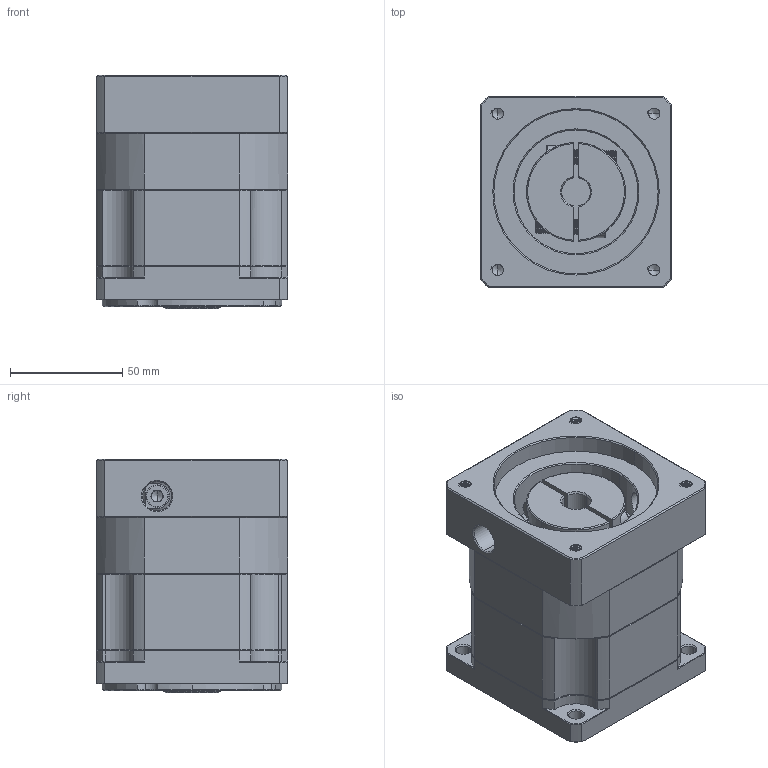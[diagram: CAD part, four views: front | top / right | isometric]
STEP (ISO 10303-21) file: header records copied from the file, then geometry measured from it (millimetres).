
FILE_DESCRIPTION (( 'STEP AP214' ), '1' );
FILE_NAME ('ZB90-K15-L1-12.7-73-69.5X69.5-M6.STEP', '2022-05-02T15:32:46', ( '' ), ( 'Microsoft' ), 'SwSTEP 2.0', 'SolidWorks 2016', '' );
FILE_SCHEMA (( 'AUTOMOTIVE_DESIGN' ));
Length unit declared in the file: millimetre
Products named in the file (1): ZB90-K15-L1-12.7-73-69.5X69.5-M6
Bounding box: 85 x 85 x 104 mm (x, y, z)
Volume: 590408.2 mm3; surface area: 85089.7 mm2
Topology: 4 solids, 5 shells, 1879 faces, 4911 edges, 3111 vertices
Faces by surface type: plane 875, cylinder 358, cone 329, bspline 292, torus 25
Entity records: 98884 total; most frequent: CARTESIAN_POINT 34486, ORIENTED_EDGE 9782, DIRECTION 7996, EDGE_CURVE 4891, VERTEX_POINT 3111, VECTOR 3046, LINE 3046, AXIS2_PLACEMENT_3D 2475
